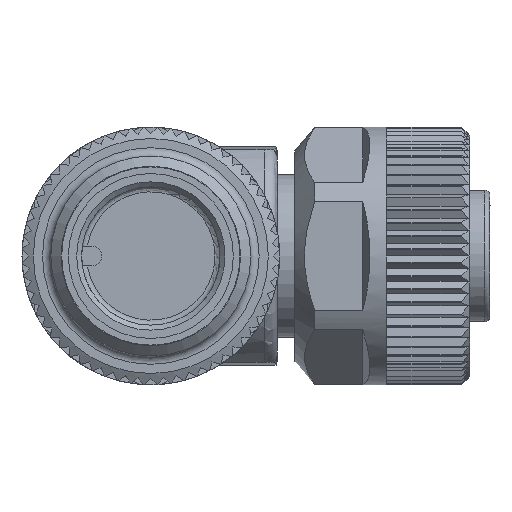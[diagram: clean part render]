
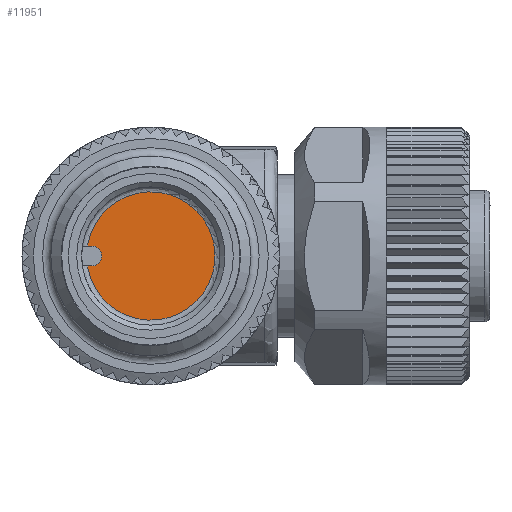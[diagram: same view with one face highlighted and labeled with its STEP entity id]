
A CAD part, left-side view. The second image highlights one B-rep face of the part: STEP entity #11951.
In plain terms, the highlighted planar face has unit normal (-1, 0, 0).
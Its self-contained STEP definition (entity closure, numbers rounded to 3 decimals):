
#877=LINE('',#18444,#1541);
#878=LINE('',#18449,#1542);
#1541=VECTOR('',#14625,1000.);
#1542=VECTOR('',#14628,1000.);
#3541=ORIENTED_EDGE('',*,*,#5431,.F.);
#3542=ORIENTED_EDGE('',*,*,#5432,.F.);
#3543=ORIENTED_EDGE('',*,*,#5433,.F.);
#3544=ORIENTED_EDGE('',*,*,#5434,.F.);
#5431=EDGE_CURVE('',#6453,#6454,#877,.T.);
#5432=EDGE_CURVE('',#6455,#6453,#6848,.F.);
#5433=EDGE_CURVE('',#6456,#6455,#878,.T.);
#5434=EDGE_CURVE('',#6454,#6456,#6849,.T.);
#6453=VERTEX_POINT('',#18445);
#6454=VERTEX_POINT('',#18446);
#6455=VERTEX_POINT('',#18448);
#6456=VERTEX_POINT('',#18450);
#6848=CIRCLE('',#12760,0.6);
#6849=CIRCLE('',#12761,3.85);
#7159=EDGE_LOOP('',(#3541,#3542,#3543,#3544));
#7692=FACE_BOUND('',#7159,.T.);
#8145=PLANE('',#12759);
#11951=ADVANCED_FACE('',(#7692),#8145,.F.);
#12759=AXIS2_PLACEMENT_3D('',#18443,#14623,#14624);
#12760=AXIS2_PLACEMENT_3D('',#18447,#14626,#14627);
#12761=AXIS2_PLACEMENT_3D('',#18451,#14629,#14630);
#14623=DIRECTION('',(1.,0.,0.));
#14624=DIRECTION('',(0.,0.,-1.));
#14625=DIRECTION('',(0.,1.,0.));
#14626=DIRECTION('',(1.,0.,0.));
#14627=DIRECTION('',(0.,0.,-1.));
#14628=DIRECTION('',(0.,-1.,0.));
#14629=DIRECTION('',(1.,0.,0.));
#14630=DIRECTION('',(0.,0.,-1.));
#18443=CARTESIAN_POINT('',(10.1,0.,0.));
#18444=CARTESIAN_POINT('',(10.1,0.,0.6));
#18445=CARTESIAN_POINT('',(10.1,3.55,0.6));
#18446=CARTESIAN_POINT('',(10.1,3.803,0.6));
#18447=CARTESIAN_POINT('',(10.1,3.55,0.));
#18448=CARTESIAN_POINT('',(10.1,3.55,-0.6));
#18449=CARTESIAN_POINT('',(10.1,0.,-0.6));
#18450=CARTESIAN_POINT('',(10.1,3.803,-0.6));
#18451=CARTESIAN_POINT('',(10.1,0.,0.));
